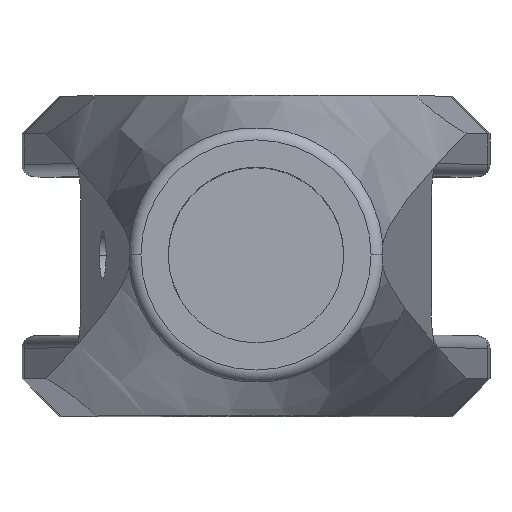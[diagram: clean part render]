
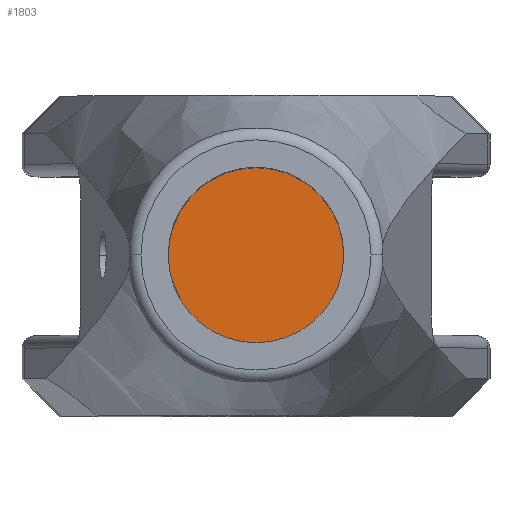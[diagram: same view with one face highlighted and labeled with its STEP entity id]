
A CAD part, top view. The second image highlights one B-rep face of the part: STEP entity #1803.
In plain terms, the highlighted planar face has unit normal (0, 0, 1).
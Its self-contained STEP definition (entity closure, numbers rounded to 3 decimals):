
#50 = VERTEX_POINT ( 'NONE', #54 ) ;
#54 = CARTESIAN_POINT ( 'NONE',  ( 9., 0., -84. ) ) ;
#63 = CARTESIAN_POINT ( 'NONE',  ( 30., 0., -84. ) ) ;
#127 = DIRECTION ( 'NONE',  ( 1., 0., 0. ) ) ;
#156 = DIRECTION ( 'NONE',  ( 0., 0., 1. ) ) ;
#186 = CARTESIAN_POINT ( 'NONE',  ( 30., 0., -84. ) ) ;
#217 = DIRECTION ( 'NONE',  ( 1., 0., 0. ) ) ;
#256 = DIRECTION ( 'NONE',  ( 1., 0., 0. ) ) ;
#325 = CARTESIAN_POINT ( 'NONE',  ( 51., 0., -84. ) ) ;
#559 = CIRCLE ( 'NONE', #1637, 21. ) ;
#565 = VERTEX_POINT ( 'NONE', #325 ) ;
#620 = EDGE_LOOP ( 'NONE', ( #1598, #1385 ) ) ;
#749 = EDGE_CURVE ( 'NONE', #565, #50, #559, .T. ) ;
#813 = CIRCLE ( 'NONE', #1740, 21. ) ;
#1285 = DIRECTION ( 'NONE',  ( 0., 0., 1. ) ) ;
#1317 = DIRECTION ( 'NONE',  ( 0., 0., 1. ) ) ;
#1385 = ORIENTED_EDGE ( 'NONE', *, *, #1560, .T. ) ;
#1560 = EDGE_CURVE ( 'NONE', #50, #565, #813, .T. ) ;
#1598 = ORIENTED_EDGE ( 'NONE', *, *, #749, .T. ) ;
#1637 = AXIS2_PLACEMENT_3D ( 'NONE', #186, #156, #127 ) ;
#1702 = CARTESIAN_POINT ( 'NONE',  ( 30., 0., -84. ) ) ;
#1740 = AXIS2_PLACEMENT_3D ( 'NONE', #63, #1317, #256 ) ;
#1803 = ADVANCED_FACE ( 'NONE', ( #2124 ), #2002, .T. ) ;
#1904 = AXIS2_PLACEMENT_3D ( 'NONE', #1702, #1285, #217 ) ;
#2002 = PLANE ( 'NONE',  #1904 ) ;
#2124 = FACE_OUTER_BOUND ( 'NONE', #620, .T. ) ;
